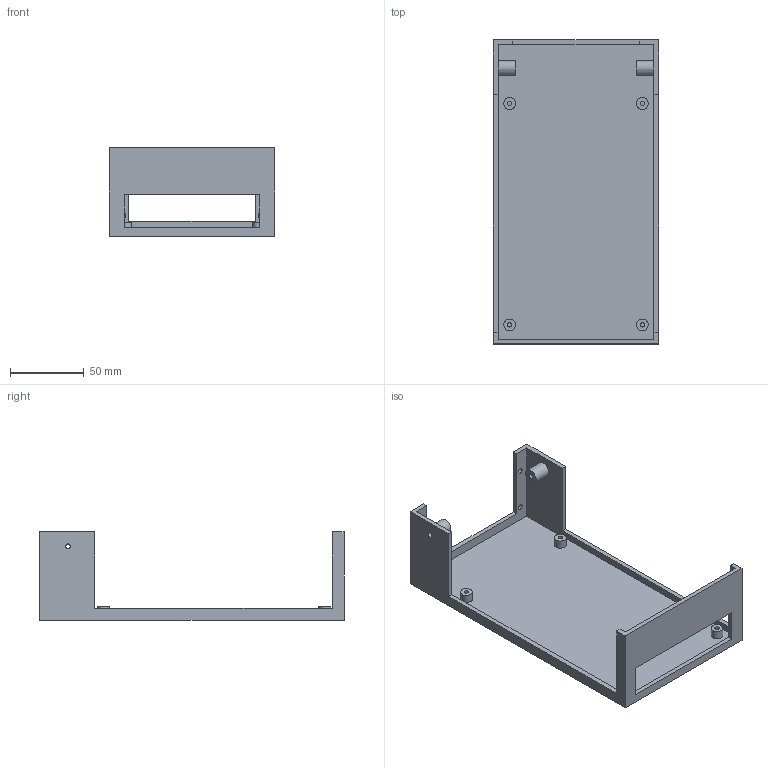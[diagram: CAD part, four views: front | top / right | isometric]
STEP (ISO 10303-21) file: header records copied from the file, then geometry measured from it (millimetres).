
FILE_DESCRIPTION(('Open CASCADE Model'),'2;1');
FILE_NAME('Open CASCADE Shape Model','2026-07-26T23:16:42',('Author'),( 'Open CASCADE'),'Open CASCADE STEP processor 7.9','Open CASCADE 7.9' ,'Unknown');
FILE_SCHEMA(('AUTOMOTIVE_DESIGN { 1 0 10303 214 1 1 1 1 }'));
Length unit declared in the file: millimetre
Products named in the file (1): Open CASCADE STEP translator 7.9 1
Bounding box: 112 x 206 x 59.8 mm (x, y, z)
Volume: 115744.8 mm3; surface area: 76370.9 mm2
Topology: 1 solids, 1 shells, 56 faces, 126 edges, 84 vertices
Faces by surface type: plane 38, cylinder 18
Full cylindrical faces by diameter (mm): 2.8 x6, 3.4 x6, 8 x4, 10 x2
Entity records: 3233 total; most frequent: CARTESIAN_POINT 591, DIRECTION 491, LINE 276, VECTOR 276, ORIENTED_EDGE 252, PCURVE 252, DEFINITIONAL_REPRESENTATION 252, EDGE_CURVE 126
